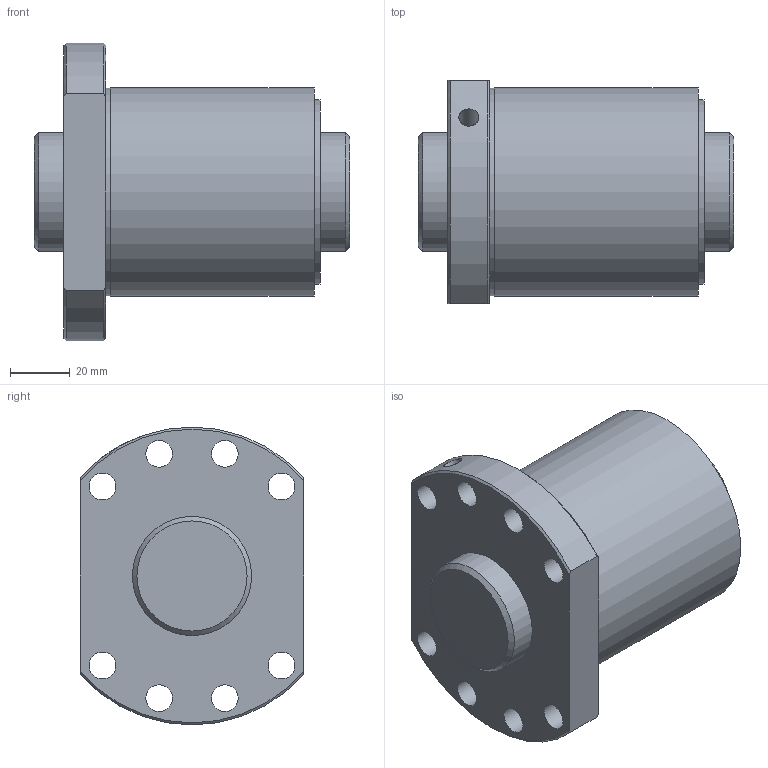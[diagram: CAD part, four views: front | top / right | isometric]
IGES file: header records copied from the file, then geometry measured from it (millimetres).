
Start section: Data from Parasolid IGES Translator 26.0.171, Copyright(c) 2006 Siemens PLM Software. All Rights Reserved.
Global section: file name: SDA4040VA-2G0+106LC0(0G000).igs; native system: By Siemens PLM Incorporated; preprocessor: XPlus GENERIC/IGES 26.0.171; author: Noname; organization: Noname; date: 20240528.114350; units: millimetre
Bounding box: 106 x 75 x 100 mm (x, y, z)
Surface area: 59978.7 mm2 (no closed solid volume)
Topology: 0 solids, 0 shells, 33 faces, 158 edges, 139 vertices
Faces by surface type: revolution 24, extrusion 9
